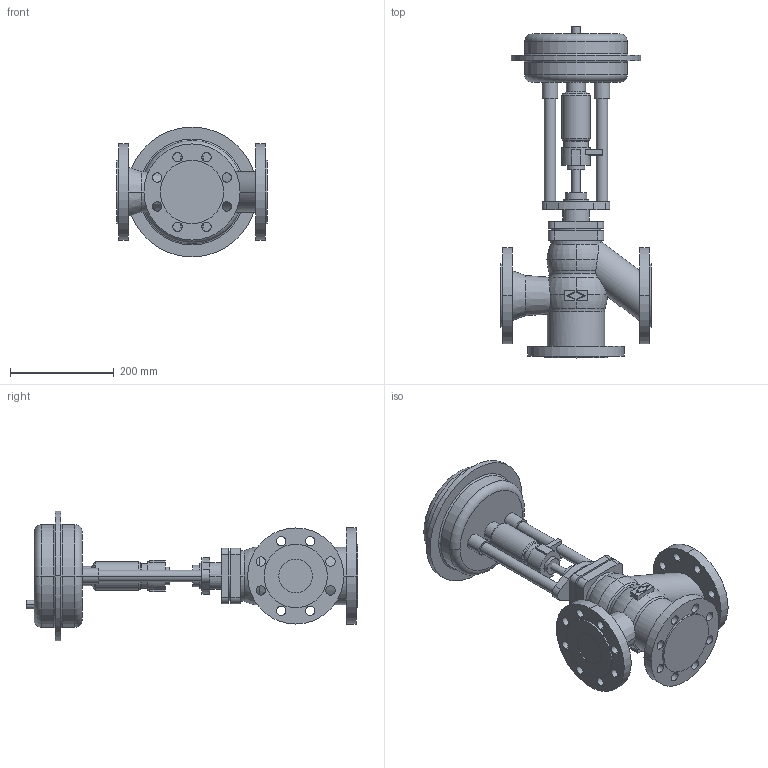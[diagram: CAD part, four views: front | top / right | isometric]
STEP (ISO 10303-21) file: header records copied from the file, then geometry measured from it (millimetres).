
FILE_DESCRIPTION(('OneSpaceDesigner STEP Export'),'2;1');
FILE_NAME('c000000646.stp','2006-09-13T12:37:03',(''),(''),'OneSpace Designer STEP processor for AP214 (Solid Model)','OneSpace Designer 13.20A 18-Aug-2005 (C) CoCreate Software GmbH','');
FILE_SCHEMA(('AUTOMOTIVE_DESIGN { 1 0 10303 214 1 1 1 1 }'));
Length unit declared in the file: millimetre
Products named in the file (2): 1; 2
Bounding box: 290 x 639.5 x 250 mm (x, y, z)
Volume: 8425189.7 mm3; surface area: 571047.3 mm2
Topology: 2 solids, 2 shells, 241 faces, 604 edges, 395 vertices
Faces by surface type: cylinder 118, plane 81, torus 34, cone 8
Entity records: 6460 total; most frequent: ORIENTED_EDGE 1208, CARTESIAN_POINT 1205, DIRECTION 932, EDGE_CURVE 604, VERTEX_POINT 395, AXIS2_PLACEMENT_3D 344, EDGE_LOOP 317, VECTOR 244
